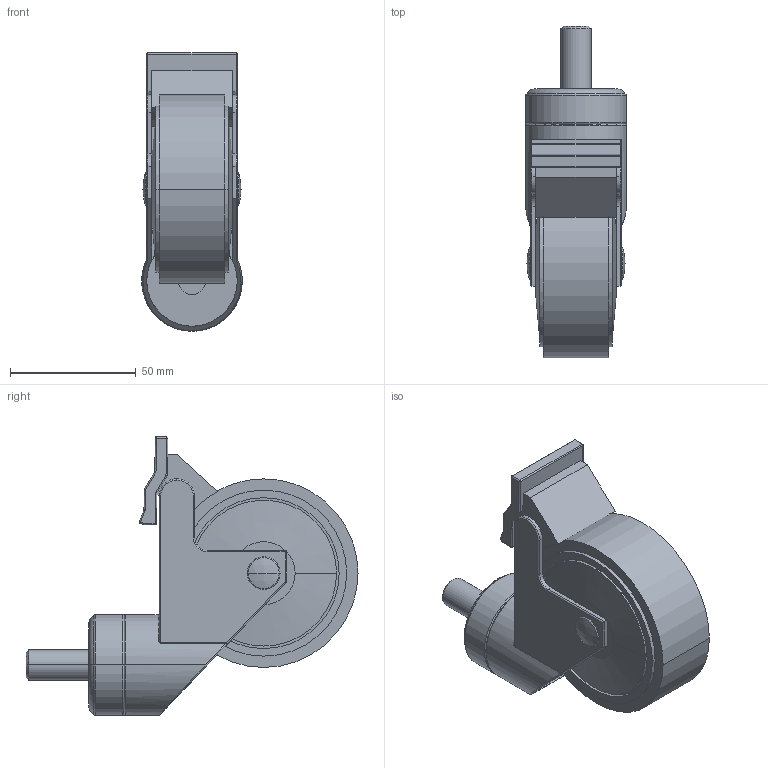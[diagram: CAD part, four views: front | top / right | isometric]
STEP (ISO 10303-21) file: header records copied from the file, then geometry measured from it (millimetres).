
FILE_DESCRIPTION (( 'STEP AP203' ), '1' );
FILE_NAME ('282574.step', '2016-10-29T02:54:59', ( '微软用户' ), ( '微软中国' ), 'SwSTEP 2.0', 'SolidWorks 2010', '' );
FILE_SCHEMA (( 'CONFIG_CONTROL_DESIGN' ));
Length unit declared in the file: millimetre
Products named in the file (4): 282574; ﾖﾐﾐﾍﾋｿｸﾋﾋｫﾉｲﾖｧｼﾜ_H107ﾖﾐﾐﾍﾋｿｸﾋﾋｫﾉｲﾖｧｼﾜ; 笢倰邧价_ZXS75; 閉噙擄停眲謫P_D75閉噙擄停眲謫P-窪
Assembly tree (3 placements, depth 2):
  282574
    閉噙擄停眲謫P_D75閉噙擄停眲謫P-窪
    ﾖﾐﾐﾍﾋｿｸﾋﾋｫﾉｲﾖｧｼﾜ_H107ﾖﾐﾐﾍﾋｿｸﾋﾋｫﾉｲﾖｧｼﾜ
    笢倰邧价_ZXS75
Bounding box: 40 x 132 x 110.73 mm (x, y, z)
Volume: 180934.5 mm3; surface area: 46301.9 mm2
Topology: 3 solids, 3 shells, 186 faces, 429 edges, 250 vertices
Faces by surface type: cylinder 88, plane 47, torus 23, sphere 16, cone 6, bspline 6
Entity records: 6263 total; most frequent: CARTESIAN_POINT 1632, DIRECTION 970, ORIENTED_EDGE 834, EDGE_CURVE 417, AXIS2_PLACEMENT_3D 392, VERTEX_POINT 248, CIRCLE 206, EDGE_LOOP 205
